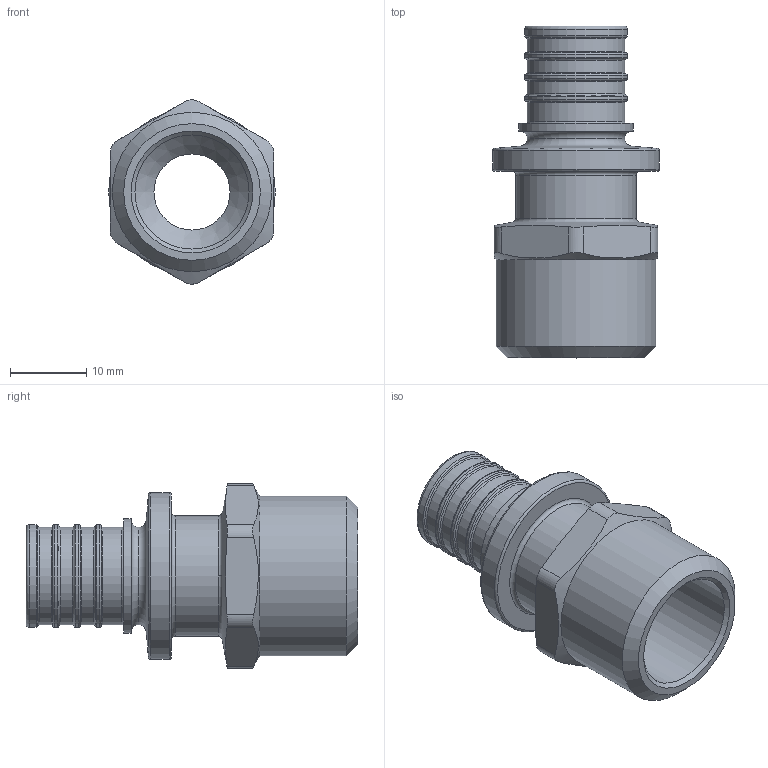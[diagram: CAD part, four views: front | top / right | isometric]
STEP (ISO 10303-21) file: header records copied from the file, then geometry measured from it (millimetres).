
FILE_DESCRIPTION(('STEP AP203'), '1');
FILE_NAME('ﾂﾐ.753137.004 - VTm.401.G.001604 ﾔ頸. 浯葢. G 1-2', '2024-01-23T12:56:40', ('IT'), ('VESTA'), 'C3D Converter', 'C3D Toolkit', '');
FILE_SCHEMA(('CONFIG_CONTROL_DESIGN'));
Length unit declared in the file: millimetre
Products named in the file (1): ВР.753137.004
Bounding box: 21.9 x 43.6 x 24.21 mm (x, y, z)
Volume: 5895.4 mm3; surface area: 4899.9 mm2
Topology: 1 solids, 1 shells, 61 faces, 132 edges, 76 vertices
Faces by surface type: torus 23, cylinder 20, plane 11, cone 7
Full cylindrical faces by diameter (mm): 10 x1, 12.8 x4, 13.5 x4, 15 x2, 15.8 x1, 20.955 x1, 21.9 x1
Entity records: 2248 total; most frequent: CARTESIAN_POINT 1073, DIRECTION 240, ORIENTED_EDGE 180, AXIS2_PLACEMENT_3D 114, EDGE_LOOP 108, EDGE_CURVE 90, FACE_OUTER_BOUND 78, VERTEX_POINT 76
